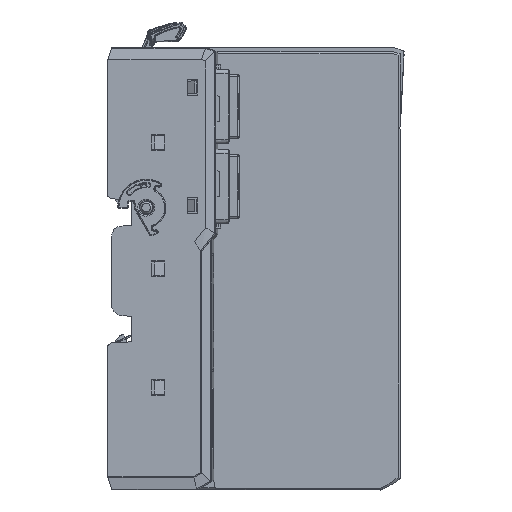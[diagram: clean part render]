
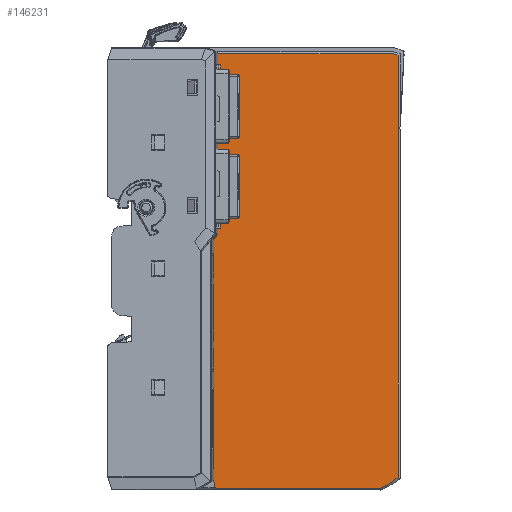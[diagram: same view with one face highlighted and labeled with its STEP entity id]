
A CAD part, left-side view. The second image highlights one B-rep face of the part: STEP entity #146231.
In plain terms, the highlighted planar face has unit normal (-1, 0, 0).
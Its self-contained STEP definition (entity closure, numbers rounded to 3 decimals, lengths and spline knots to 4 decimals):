
#80182=DIRECTION('',(0.,0.,-1.));
#80183=VECTOR('',#80182,0.2747);
#80184=CARTESIAN_POINT('',(-0.8701,1.8189,
2.7657));
#80185=LINE('',#80184,#80183);
#80198=DIRECTION('',(0.,0.,-1.));
#80199=VECTOR('',#80198,0.3248);
#80200=CARTESIAN_POINT('',(-0.8701,1.8189,
4.2913));
#80201=LINE('',#80200,#80199);
#80615=DIRECTION('',(0.,0.,1.));
#80616=VECTOR('',#80615,4.2061);
#80617=CARTESIAN_POINT('',(-0.8701,0.0197,
0.0685));
#80618=LINE('',#80617,#80616);
#80631=CARTESIAN_POINT('',(-0.8701,0.0197,
0.0685));
#80632=CARTESIAN_POINT('',(-0.8701,0.0459,
0.0454));
#80633=CARTESIAN_POINT('',(-0.8701,0.1025,
0.0041));
#80634=CARTESIAN_POINT('',(-0.8701,0.1655,
-0.0265));
#80635=CARTESIAN_POINT('',(-0.8701,0.198,
-0.0394));
#80637=DIRECTION('',(0.,0.174,0.985));
#80638=VECTOR('',#80637,0.0783);
#80639=CARTESIAN_POINT('',(-0.8701,1.8447,
-0.0394));
#80640=LINE('',#80639,#80638);
#80641=CARTESIAN_POINT('',(-0.8701,1.8583,
2.4369));
#80642=CARTESIAN_POINT('',(-0.8701,1.8542,
2.4422));
#80643=CARTESIAN_POINT('',(-0.8701,1.846,
2.4528));
#80644=CARTESIAN_POINT('',(-0.8701,1.8336,
2.4688));
#80645=CARTESIAN_POINT('',(-0.8701,1.8252,
2.4796));
#80646=CARTESIAN_POINT('',(-0.8701,1.821,
2.485));
#80648=DIRECTION('',(0.,0.,-1.));
#80649=VECTOR('',#80648,0.1772);
#80650=CARTESIAN_POINT('',(-0.8701,1.8189,
3.9665));
#80651=LINE('',#80650,#80649);
#80660=DIRECTION('',(0.,1.,0.));
#80661=VECTOR('',#80660,1.7498);
#80662=CARTESIAN_POINT('',(-0.8701,0.0691,
4.2913));
#80663=LINE('',#80662,#80661);
#80810=CARTESIAN_POINT('',(-0.8701,1.8189,
2.491));
#80811=CARTESIAN_POINT('',(-0.8701,1.8189,
2.4903));
#80812=CARTESIAN_POINT('',(-0.8701,1.8191,
2.4889));
#80813=CARTESIAN_POINT('',(-0.8701,1.8198,
2.4868));
#80814=CARTESIAN_POINT('',(-0.8701,1.8205,
2.4856));
#80815=CARTESIAN_POINT('',(-0.8701,1.821,
2.485));
#80832=DIRECTION('',(0.,0.,-1.));
#80833=VECTOR('',#80832,2.3992);
#80834=CARTESIAN_POINT('',(-0.8701,1.8583,
2.4369));
#80835=LINE('',#80834,#80833);
#80894=DIRECTION('',(0.,-1.,0.));
#80895=VECTOR('',#80894,1.6467);
#80896=CARTESIAN_POINT('',(-0.8701,1.8447,
-0.0394));
#80897=LINE('',#80896,#80895);
#91837=DIRECTION('',(0.,0.,-1.));
#91838=VECTOR('',#91837,0.8465);
#91839=CARTESIAN_POINT('',(-0.8701,1.8189,
3.7893));
#91840=LINE('',#91839,#91838);
#91919=DIRECTION('',(0.,0.,-1.));
#91920=VECTOR('',#91919,0.1772);
#91921=CARTESIAN_POINT('',(-0.8701,1.8189,
2.9429));
#91922=LINE('',#91921,#91920);
#99165=DIRECTION('',(0.,0.947,0.321));
#99166=VECTOR('',#99165,0.0521);
#99167=CARTESIAN_POINT('',(-0.8701,0.0197,
4.2746));
#99168=LINE('',#99167,#99166);
#110162=CARTESIAN_POINT('',(-0.8701,1.8189,
3.7893));
#110163=VERTEX_POINT('',#110162);
#114186=CARTESIAN_POINT('',(-0.8701,1.8189,
2.7657));
#114187=VERTEX_POINT('',#114186);
#114191=CARTESIAN_POINT('',(-0.8701,1.8189,
2.9429));
#114192=VERTEX_POINT('',#114191);
#114193=CARTESIAN_POINT('',(-0.8701,1.8189,
3.9665));
#114194=VERTEX_POINT('',#114193);
#114195=CARTESIAN_POINT('',(-0.8701,1.8189,
4.2913));
#114196=VERTEX_POINT('',#114195);
#114197=CARTESIAN_POINT('',(-0.8701,0.0691,
4.2913));
#114198=VERTEX_POINT('',#114197);
#114199=CARTESIAN_POINT('',(-0.8701,0.0197,
4.2746));
#114200=VERTEX_POINT('',#114199);
#114201=CARTESIAN_POINT('',(-0.8701,0.0197,
0.0685));
#114202=VERTEX_POINT('',#114201);
#114203=VERTEX_POINT('',#80635);
#114204=CARTESIAN_POINT('',(-0.8701,1.8447,
-0.0394));
#114205=VERTEX_POINT('',#114204);
#114206=CARTESIAN_POINT('',(-0.8701,1.8583,
0.0377));
#114207=VERTEX_POINT('',#114206);
#114208=CARTESIAN_POINT('',(-0.8701,1.8583,
2.4369));
#114209=VERTEX_POINT('',#114208);
#114210=VERTEX_POINT('',#80646);
#114211=VERTEX_POINT('',#80810);
#146200=CARTESIAN_POINT('',(-0.8701,-0.0093,
-0.0827));
#146201=DIRECTION('',(-1.,0.,0.));
#146202=DIRECTION('',(0.,1.,0.));
#146203=AXIS2_PLACEMENT_3D('',#146200,#146201,#146202);
#146204=PLANE('',#146203);
#146206=ORIENTED_EDGE('',*,*,#146205,.F.);
#146207=ORIENTED_EDGE('',*,*,#145397,.F.);
#146209=ORIENTED_EDGE('',*,*,#146208,.F.);
#146211=ORIENTED_EDGE('',*,*,#146210,.F.);
#146212=ORIENTED_EDGE('',*,*,#146136,.F.);
#146213=ORIENTED_EDGE('',*,*,#146183,.T.);
#146215=ORIENTED_EDGE('',*,*,#146214,.F.);
#146217=ORIENTED_EDGE('',*,*,#146216,.T.);
#146219=ORIENTED_EDGE('',*,*,#146218,.F.);
#146221=ORIENTED_EDGE('',*,*,#146220,.T.);
#146223=ORIENTED_EDGE('',*,*,#146222,.F.);
#146224=ORIENTED_EDGE('',*,*,#145381,.F.);
#146226=ORIENTED_EDGE('',*,*,#146225,.F.);
#146228=ORIENTED_EDGE('',*,*,#146227,.F.);
#146229=EDGE_LOOP('',(#146206,#146207,#146209,#146211,#146212,#146213,#146215,
#146217,#146219,#146221,#146223,#146224,#146226,#146228));
#146230=FACE_OUTER_BOUND('',#146229,.F.);
#80636=B_SPLINE_CURVE_WITH_KNOTS('',3,(#80631,#80632,#80633,#80634,#80635),
.UNSPECIFIED.,.F.,.F.,(4,1,4),(0.,0.5,1.),.UNSPECIFIED.);
#80647=B_SPLINE_CURVE_WITH_KNOTS('',3,(#80641,#80642,#80643,#80644,#80645,
#80646),.UNSPECIFIED.,.F.,.F.,(4,1,1,4),(0.,0.3333,
0.6667,1.),.UNSPECIFIED.);
#80816=B_SPLINE_CURVE_WITH_KNOTS('',3,(#80810,#80811,#80812,#80813,#80814,
#80815),.UNSPECIFIED.,.F.,.F.,(4,1,1,4),(0.,0.3333,
0.6667,1.),.UNSPECIFIED.);
#145381=EDGE_CURVE('',#114187,#114211,#80185,.T.);
#145397=EDGE_CURVE('',#114196,#114194,#80201,.T.);
#146136=EDGE_CURVE('',#114202,#114200,#80618,.T.);
#146183=EDGE_CURVE('',#114202,#114203,#80636,.T.);
#146205=EDGE_CURVE('',#114194,#110163,#80651,.T.);
#146208=EDGE_CURVE('',#114198,#114196,#80663,.T.);
#146210=EDGE_CURVE('',#114200,#114198,#99168,.T.);
#146214=EDGE_CURVE('',#114205,#114203,#80897,.T.);
#146216=EDGE_CURVE('',#114205,#114207,#80640,.T.);
#146218=EDGE_CURVE('',#114209,#114207,#80835,.T.);
#146220=EDGE_CURVE('',#114209,#114210,#80647,.T.);
#146222=EDGE_CURVE('',#114211,#114210,#80816,.T.);
#146225=EDGE_CURVE('',#114192,#114187,#91922,.T.);
#146227=EDGE_CURVE('',#110163,#114192,#91840,.T.);
#146231=ADVANCED_FACE('',(#146230),#146204,.T.);
